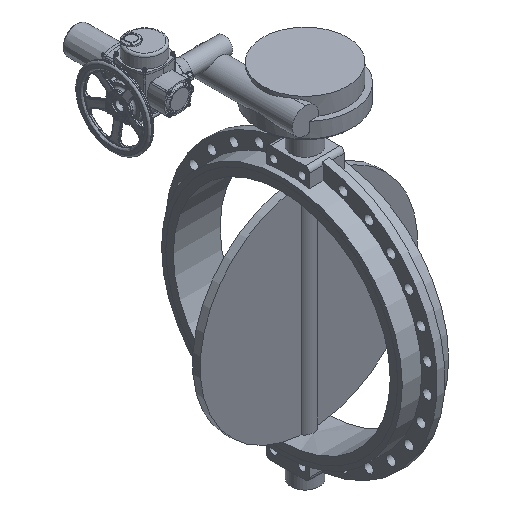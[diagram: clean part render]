
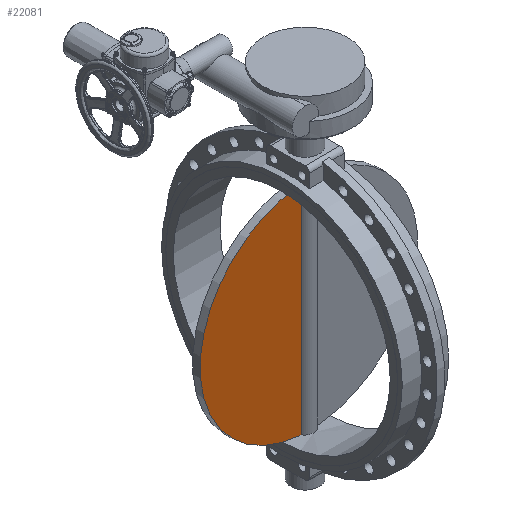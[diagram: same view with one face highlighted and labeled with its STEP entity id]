
A CAD part, isometric view. The second image highlights one B-rep face of the part: STEP entity #22081.
In plain terms, the highlighted planar face has unit normal (0, -1, 0).
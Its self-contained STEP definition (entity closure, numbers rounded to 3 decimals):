
#22081=ADVANCED_FACE('',(#44542),#44544,.T.);
#44542=FACE_BOUND('',#44543,.T.);
#44543=EDGE_LOOP('',(#57235,#57236,#57237,#57238));
#44544=PLANE('',#44545);
#44545=AXIS2_PLACEMENT_3D('',#44546,#44547,#44548);
#44546=CARTESIAN_POINT('',(0.,-17.5,0.));
#44547=DIRECTION('',(0.,-1.,0.));
#44548=DIRECTION('',(0.,0.,1.));
#57235=ORIENTED_EDGE('',*,*,#63652,.T.);
#57236=ORIENTED_EDGE('',*,*,#63505,.T.);
#57237=ORIENTED_EDGE('',*,*,#63651,.T.);
#57238=ORIENTED_EDGE('',*,*,#63525,.T.);
#63505=EDGE_CURVE('',#73782,#73780,#73783,.F.);
#63525=EDGE_CURVE('',#73800,#73820,#73822,.T.);
#63651=EDGE_CURVE('',#73780,#73800,#74004,.T.);
#63652=EDGE_CURVE('',#73820,#73782,#74005,.F.);
#73780=VERTEX_POINT('',#115695);
#73782=VERTEX_POINT('',#115711);
#73783=LINE('',#115712,#115713);
#73800=VERTEX_POINT('',#115900);
#73820=VERTEX_POINT('',#116121);
#73822=LINE('',#116151,#116152);
#74004=CIRCLE('',#116682,501.5);
#74005=LINE('',#116686,#116687);
#115695=CARTESIAN_POINT('',(-42.526,-17.5,499.694));
#115711=CARTESIAN_POINT('',(-35.969,-17.5,499.694));
#115712=CARTESIAN_POINT('',(-42.526,-17.5,499.694));
#115713=VECTOR('',#115714,1.);
#115714=DIRECTION('',(1.,0.,0.));
#115900=CARTESIAN_POINT('',(-42.526,-17.5,-499.694));
#116121=CARTESIAN_POINT('',(-35.969,-17.5,-499.694));
#116151=CARTESIAN_POINT('',(-42.526,-17.5,-499.694));
#116152=VECTOR('',#116153,1.);
#116153=DIRECTION('',(1.,0.,0.));
#116682=AXIS2_PLACEMENT_3D('',#116683,#116684,#116685);
#116683=CARTESIAN_POINT('',(0.,-17.5,0.));
#116684=DIRECTION('',(0.,-1.,0.));
#116685=DIRECTION('',(-0.085,0.,0.996));
#116686=CARTESIAN_POINT('',(-35.969,-17.5,499.694));
#116687=VECTOR('',#116688,1.);
#116688=DIRECTION('',(0.,0.,-1.));
